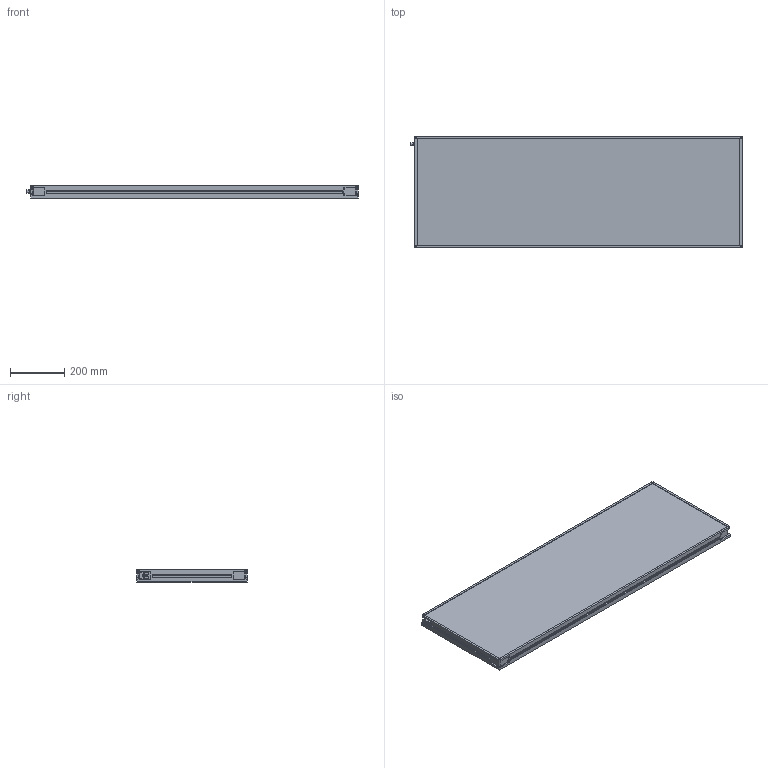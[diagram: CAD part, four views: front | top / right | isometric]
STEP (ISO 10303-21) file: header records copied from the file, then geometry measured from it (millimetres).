
FILE_DESCRIPTION (( 'STEP AP214' ), '1' );
FILE_NAME ('MBACK-xxxx-xxx-M1_CLIENT400x1200.STEP', '2022-03-31T16:05:02', ( '' ), ( '' ), 'SwSTEP 2.0', 'SolidWorks 2020', '' );
FILE_SCHEMA (( 'AUTOMOTIVE_DESIGN' ));
Length unit declared in the file: millimetre
Products named in the file (1): MBACK-xxxx-xxx-M1_CLIENT400x1200
Bounding box: 1225.9 x 408 x 45.5 mm (x, y, z)
Volume: 20488443.8 mm3; surface area: 1200307.8 mm2
Topology: 1 solids, 1 shells, 442 faces, 1144 edges, 760 vertices
Faces by surface type: plane 249, cylinder 105, bspline 80, cone 8
Entity records: 17236 total; most frequent: CARTESIAN_POINT 6699, ORIENTED_EDGE 2288, DIRECTION 1936, EDGE_CURVE 1144, VERTEX_POINT 760, LINE 758, VECTOR 758, AXIS2_PLACEMENT_3D 589
